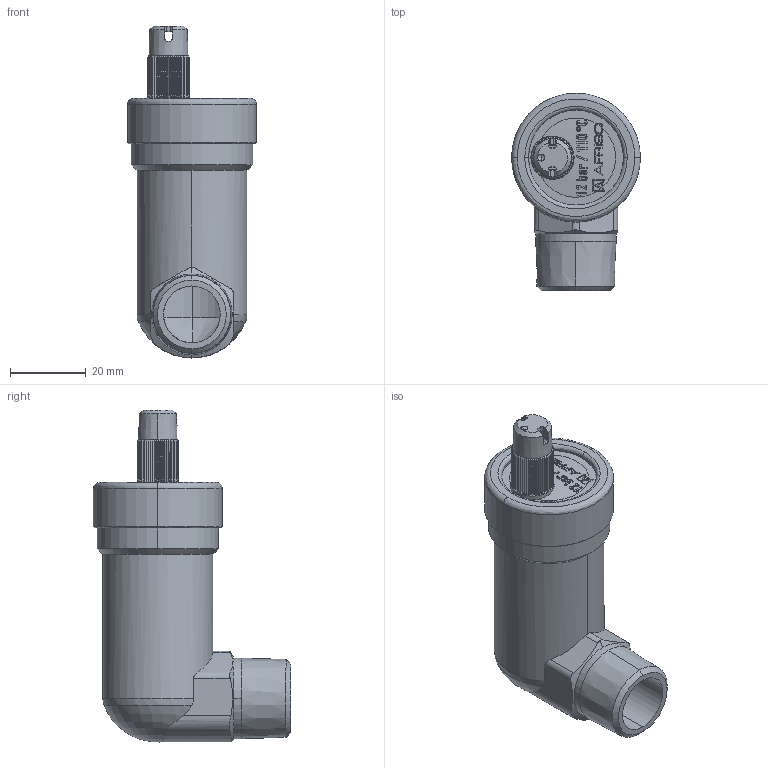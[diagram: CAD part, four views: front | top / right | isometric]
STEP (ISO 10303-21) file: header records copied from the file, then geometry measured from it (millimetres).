
FILE_DESCRIPTION (( 'STEP AP214' ), '1' );
FILE_NAME ('7775300.STEP', '2022-04-20T10:47:01', ( '' ), ( '' ), 'SwSTEP 2.0', 'SolidWorks 2021', '' );
FILE_SCHEMA (( 'AUTOMOTIVE_DESIGN' ));
Length unit declared in the file: millimetre
Products named in the file (8): WINKELGEH_X_C4USE_05 00 210019; 05 00 25 35_Schraubkappe Aquastop m. Quellscheiben; 05 00 280011_Deckel Schnellentl_X_FCfter; O-RING_801 024 2002; MUTTER_05 00 210020; 7775300; Schnellentl_X_FCfter_77753; 05 00 280034_Schraubkappe SE Aquastop
Assembly tree (7 placements, depth 4):
  7775300
    Schnellentl_X_FCfter_77753
      O-RING_801 024 2002
      MUTTER_05 00 210020
      05 00 25 35_Schraubkappe Aquastop m. Quellscheiben
        05 00 280034_Schraubkappe SE Aquastop
      05 00 280011_Deckel Schnellentl_X_FCfter
    WINKELGEH_X_C4USE_05 00 210019
Bounding box: 34 x 52.01 x 87.55 mm (x, y, z)
Volume: 18393.2 mm3; surface area: 20173.1 mm2
Topology: 3 solids, 5 shells, 1081 faces, 2946 edges, 1922 vertices
Faces by surface type: plane 563, cylinder 370, bspline 68, cone 66, torus 14
Entity records: 49538 total; most frequent: CARTESIAN_POINT 11576, ORIENTED_EDGE 5867, DIRECTION 4711, EDGE_CURVE 2939, VERTEX_POINT 1922, AXIS2_PLACEMENT_3D 1635, VECTOR 1441, LINE 1441
